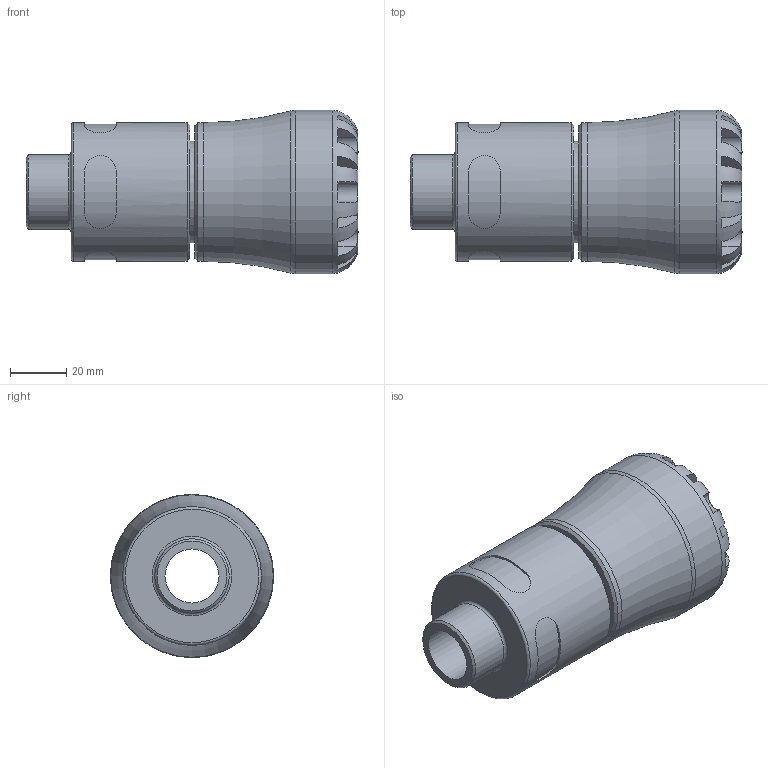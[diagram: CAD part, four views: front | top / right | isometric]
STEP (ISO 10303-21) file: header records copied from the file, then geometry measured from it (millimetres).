
FILE_DESCRIPTION(/* description */ ('PLASSON MALE ADAPTOR 32X3/4" SERIES 1'),/* implementation_level */ '2;1');
FILE_NAME(/* name */ 'C:\Dropbox\KIMPROJECTS-Inventor 2019\99-16-3568-Processing\S1\10N20\stp\10N200032007_10N2G0032007.stp',/* time_stamp */ '2024-03-12T13:19:20+01:00',/* author */ ('KIM'),/* organization */ (''),/* preprocessor_version */ 'ST-DEVELOPER v17.2',/* originating_system */ 'Autodesk Inventor 2019',/* authorisation */ '');
FILE_SCHEMA (('AUTOMOTIVE_DESIGN { 1 0 10303 214 3 1 1 }'));
Length unit declared in the file: millimetre
Products named in the file (1): 10N200032007_10N2G0032007
Bounding box: 118 x 58 x 58 mm (x, y, z)
Volume: 156742.6 mm3; surface area: 33720.4 mm2
Topology: 1 solids, 1 shells, 106 faces, 279 edges, 182 vertices
Faces by surface type: plane 62, cylinder 35, torus 5, cone 4
Full cylindrical faces by diameter (mm): 19.2 x1, 26.441 x1, 32 x1, 36 x1, 49.3 x2, 58 x1
Entity records: 4224 total; most frequent: CARTESIAN_POINT 1490, ORIENTED_EDGE 558, DIRECTION 552, EDGE_CURVE 279, AXIS2_PLACEMENT_3D 230, VERTEX_POINT 182, CIRCLE 123, EDGE_LOOP 115
